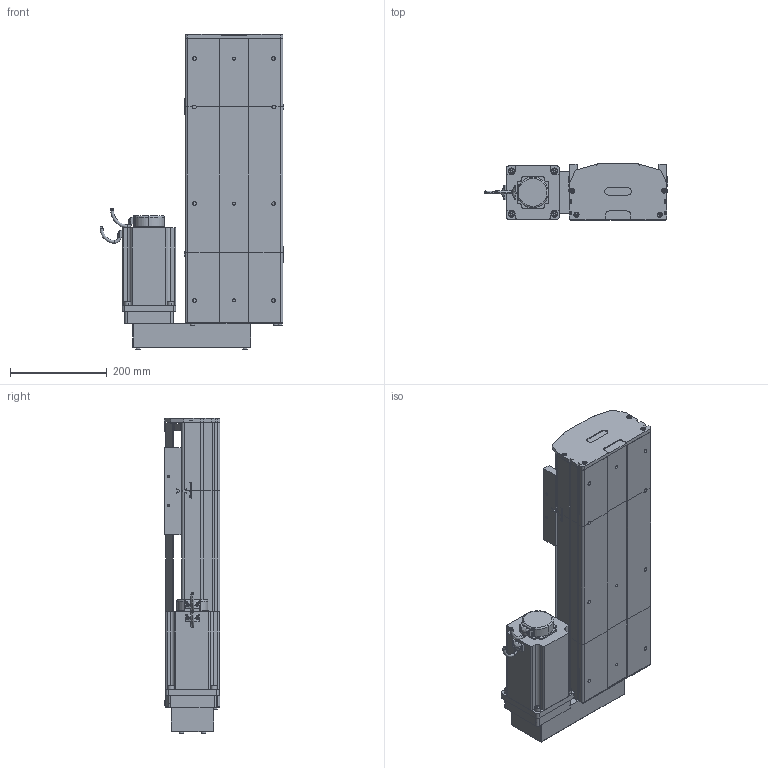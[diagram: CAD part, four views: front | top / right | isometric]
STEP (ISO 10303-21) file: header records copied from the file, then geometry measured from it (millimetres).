
FILE_DESCRIPTION (( 'STEP AP214' ), '1' );
FILE_NAME ('D20 TSH BL S300.STEP', '2010-06-30T08:28:47', ( 'Conseil Régional Haute-Normandie' ), ( 'Conseil Régional Haute-Normandie' ), 'SwSTEP 2.0', 'SolidWorks 2010', '' );
FILE_SCHEMA (( 'AUTOMOTIVE_DESIGN' ));
Length unit declared in the file: millimetre
Products named in the file (35): guide D20; Chariot D20; tail D20 +100_Default; couvercle tail D20_Default; plaque de  bout tail D20_Default; Arbre+rail tail D20; corpl tail D20 +100_Default; vis M5 L8 90°_Default; 2 vis M5 L12_Default; tete d''axe bas D20; chariot D20S_Default; vis M5 L25_Default; tete d''axe haut D20; vis M5 L12_Default; vis M5 L70_Default; renvoi  BR_Default; course D20 L300_Default; D20 TSH BL S300; vis M8 L12_Default; clavette; Conecteur_Default; Conecteur2_Default; codeur 110BLDC170A-630x; Plaque racord D20_Default; couvercle head l D20_Default; Arbre+rail head D20; corps 110BLDC170A-630x; avant 110BLDC170A-630x; Moteur motionking 110BLDC170A-640x; plaque de  bout head BR D20_Default; corpl head MD D20_Default; head BL D20_Default; couvercle D20 S300_Default; rail + arbre  D20 S300; corp D20 S300_Default
Assembly tree (59 placements, depth 4):
  D20 TSH BL S300
    head BL D20_Default
      vis M8 L12_Default  x4
      vis M5 L25_Default  x2
      vis M5 L12_Default  x2
      vis M5 L70_Default  x4
      Moteur motionking 110BLDC170A-640x
        codeur 110BLDC170A-630x
        corps 110BLDC170A-630x
        avant 110BLDC170A-630x
        clavette
        Conecteur2_Default
        Conecteur_Default
      Arbre+rail head D20
      corpl head MD D20_Default
      2 vis M5 L12_Default  x6
      couvercle head l D20_Default
      renvoi  BR_Default
      Plaque racord D20_Default
      plaque de  bout head BR D20_Default
    tail D20 +100_Default
      corpl tail D20 +100_Default
      vis M5 L8 90°_Default  x2
      vis M5 L25_Default  x2
      couvercle tail D20_Default
      tete d''axe bas D20
      2 vis M5 L12_Default  x4
      tete d''axe haut D20
      plaque de  bout tail D20_Default
      Arbre+rail tail D20
    chariot D20S_Default
      vis M5 L12_Default  x4
      Chariot D20
      guide D20  x2
    course D20 L300_Default
      couvercle D20 S300_Default
      rail + arbre  D20 S300
      corp D20 S300_Default
Bounding box: 380 x 115.7 x 651.7 mm (x, y, z)
Volume: 8326568.2 mm3; surface area: 1606939.8 mm2
Topology: 84 solids, 84 shells, 2294 faces, 5705 edges, 3681 vertices
Faces by surface type: plane 1382, cylinder 624, bspline 136, torus 77, cone 71, sphere 4
Entity records: 73606 total; most frequent: CARTESIAN_POINT 23852, ORIENTED_EDGE 8706, DIRECTION 8246, EDGE_CURVE 4353, VECTOR 2908, LINE 2908, VERTEX_POINT 2863, AXIS2_PLACEMENT_3D 2669
